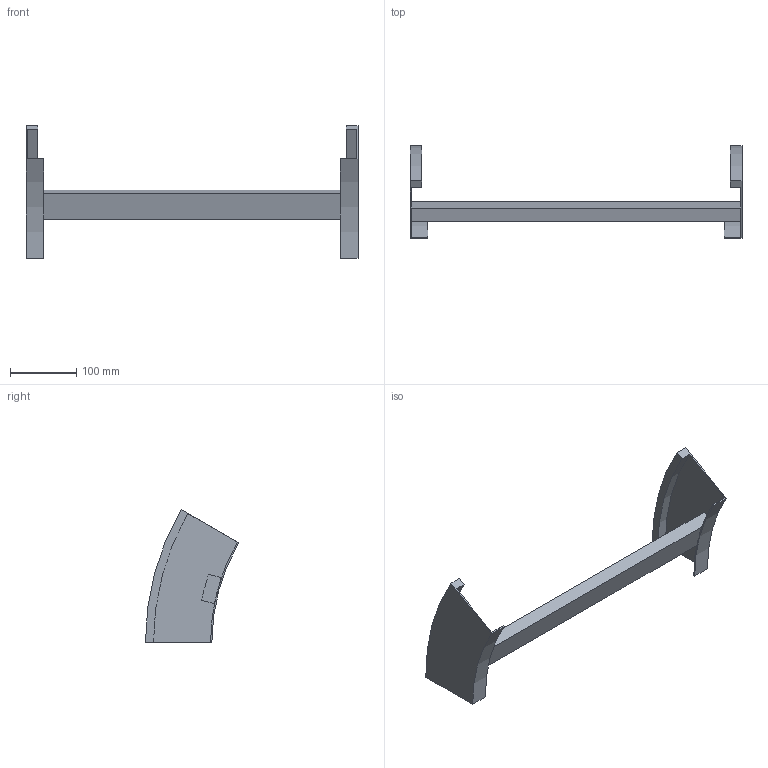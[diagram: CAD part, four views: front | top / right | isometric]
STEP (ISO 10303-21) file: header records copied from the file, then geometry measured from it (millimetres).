
FILE_DESCRIPTION (( 'STEP AP214' ), '1' );
FILE_NAME ('B2_35B3D500.step', '2025-02-21T14:46:53', ( '' ), ( '' ), 'SwSTEP 2.0', 'SolidWorks 2023', '' );
FILE_SCHEMA (( 'AUTOMOTIVE_DESIGN' ));
Length unit declared in the file: millimetre
Products named in the file (3): B2_LONGH.DISCESA_30°_H100_R300; TRAVERSINO_500; B2_35B3D500
Assembly tree (3 placements, depth 2):
  B2_35B3D500
    B2_LONGH.DISCESA_30°_H100_R300  x2
    TRAVERSINO_500
Bounding box: 500 x 140.19 x 200 mm (x, y, z)
Volume: 570042.6 mm3; surface area: 167137.3 mm2
Topology: 3 solids, 3 shells, 26 faces, 60 edges, 40 vertices
Faces by surface type: plane 18, cylinder 8
Entity records: 544 total; most frequent: DIRECTION 88, CARTESIAN_POINT 82, ORIENTED_EDGE 72, EDGE_CURVE 36, AXIS2_PLACEMENT_3D 30, VECTOR 28, LINE 28, VERTEX_POINT 24
